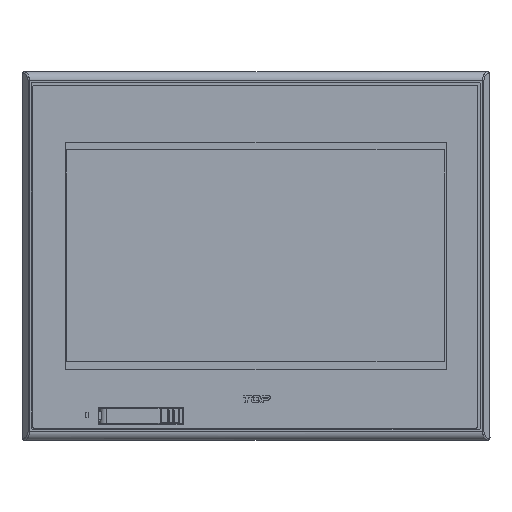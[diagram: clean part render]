
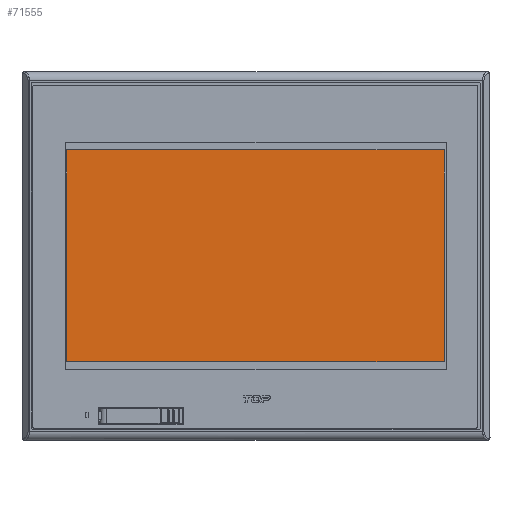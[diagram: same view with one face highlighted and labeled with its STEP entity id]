
A CAD part, top view. The second image highlights one B-rep face of the part: STEP entity #71555.
In plain terms, the highlighted planar face has unit normal (0, 0, 1).
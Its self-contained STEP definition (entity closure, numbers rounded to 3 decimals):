
#16013=DIRECTION('',(1.,0.,0.));
#16014=VECTOR('',#16013,220.9);
#16015=CARTESIAN_POINT('',(-110.8,62.1,-0.27));
#16016=LINE('',#16015,#16014);
#16017=DIRECTION('',(0.,-1.,0.));
#16018=VECTOR('',#16017,124.);
#16019=CARTESIAN_POINT('',(110.1,62.1,-0.27));
#16020=LINE('',#16019,#16018);
#16021=DIRECTION('',(-1.,0.,0.));
#16022=VECTOR('',#16021,220.9);
#16023=CARTESIAN_POINT('',(110.1,-61.9,-0.27));
#16024=LINE('',#16023,#16022);
#16025=DIRECTION('',(0.,1.,0.));
#16026=VECTOR('',#16025,124.);
#16027=CARTESIAN_POINT('',(-110.8,-61.9,-0.27));
#16028=LINE('',#16027,#16026);
#51746=CARTESIAN_POINT('',(-110.8,62.1,-0.27));
#51747=CARTESIAN_POINT('',(110.1,62.1,-0.27));
#51748=VERTEX_POINT('',#51746);
#51749=VERTEX_POINT('',#51747);
#51750=CARTESIAN_POINT('',(110.1,-61.9,-0.27));
#51751=VERTEX_POINT('',#51750);
#51752=CARTESIAN_POINT('',(-110.8,-61.9,-0.27));
#51753=VERTEX_POINT('',#51752);
#71541=CARTESIAN_POINT('',(0.,0.,-0.27));
#71542=DIRECTION('',(0.,0.,1.));
#71543=DIRECTION('',(1.,0.,0.));
#71544=AXIS2_PLACEMENT_3D('',#71541,#71542,#71543);
#71545=PLANE('',#71544);
#71546=ORIENTED_EDGE('',*,*,#71531,.T.);
#71548=ORIENTED_EDGE('',*,*,#71547,.T.);
#71550=ORIENTED_EDGE('',*,*,#71549,.T.);
#71552=ORIENTED_EDGE('',*,*,#71551,.T.);
#71553=EDGE_LOOP('',(#71546,#71548,#71550,#71552));
#71554=FACE_OUTER_BOUND('',#71553,.F.);
#71555=ADVANCED_FACE('',(#71554),#71545,.T.);
#71531=EDGE_CURVE('',#51748,#51749,#16016,.T.);
#71547=EDGE_CURVE('',#51749,#51751,#16020,.T.);
#71549=EDGE_CURVE('',#51751,#51753,#16024,.T.);
#71551=EDGE_CURVE('',#51753,#51748,#16028,.T.);
